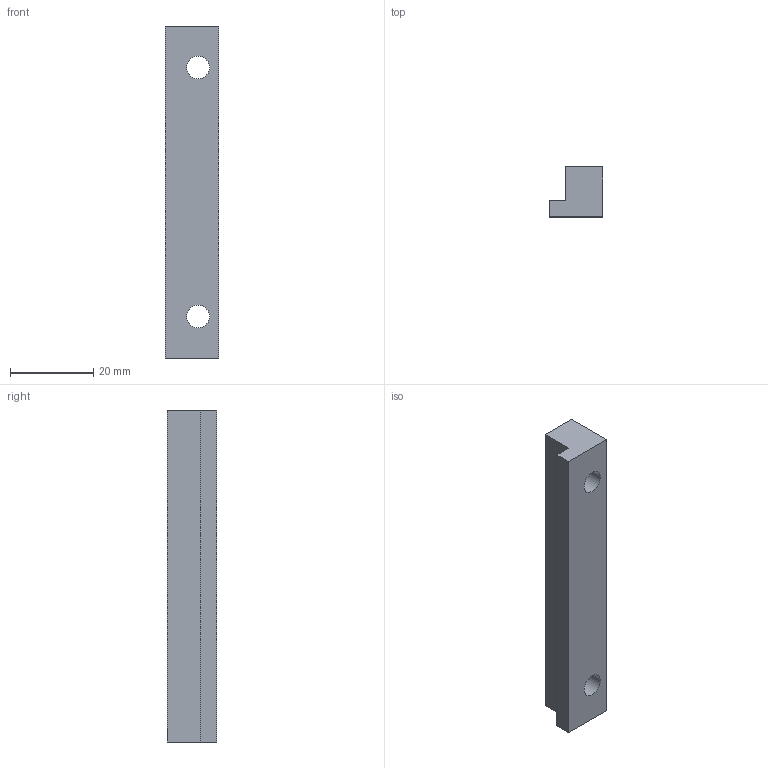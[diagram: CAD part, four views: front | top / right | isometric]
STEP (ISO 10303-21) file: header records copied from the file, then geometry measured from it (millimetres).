
FILE_DESCRIPTION(('STEP AP203'), '1');
FILE_NAME('眐珆1801.01.30.00.003 - 砎鳽鳻', '', ('UNSPECIFIED'), ('UNSPECIFIED'), 'C3D Converter', 'C3D Toolkit', '');
FILE_SCHEMA(('CONFIG_CONTROL_DESIGN'));
Length unit declared in the file: millimetre
Products named in the file (1): ТППФ1801.01.30.00.003
Bounding box: 13 x 12 x 80 mm (x, y, z)
Volume: 9349.8 mm3; surface area: 4567.7 mm2
Topology: 1 solids, 1 shells, 10 faces, 24 edges, 16 vertices
Faces by surface type: plane 8, cylinder 2
Full cylindrical faces by diameter (mm): 5.5 x2
Entity records: 405 total; most frequent: CARTESIAN_POINT 49, DIRECTION 48, ORIENTED_EDGE 44, EDGE_CURVE 22, LINE 18, VECTOR 18, EDGE_LOOP 16, VERTEX_POINT 16
